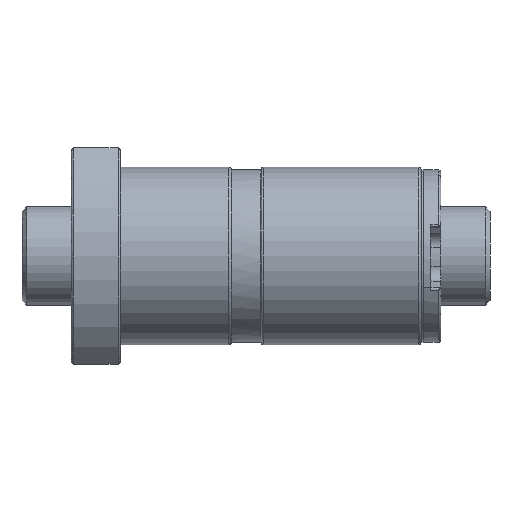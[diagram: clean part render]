
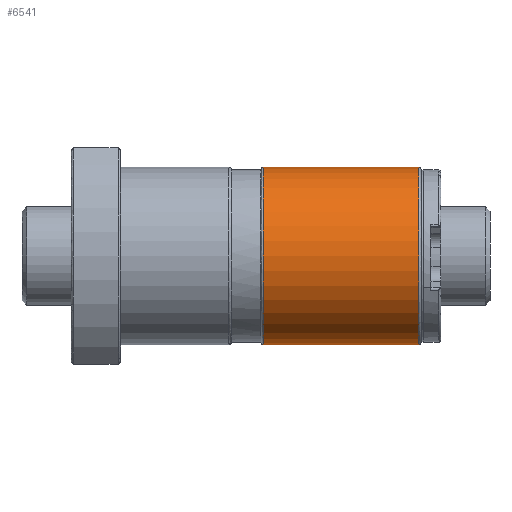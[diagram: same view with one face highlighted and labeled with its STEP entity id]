
A CAD part, front view. The second image highlights one B-rep face of the part: STEP entity #6541.
In plain terms, the highlighted cylindrical face has radius 18 mm (diameter 36 mm), a partial arc.
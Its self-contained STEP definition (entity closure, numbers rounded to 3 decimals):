
#74 = EDGE_CURVE ( 'NONE', #5407, #3514, #1865, .T. ) ;
#786 = CARTESIAN_POINT ( 'NONE',  ( 71., 0., 18. ) ) ;
#905 = CARTESIAN_POINT ( 'NONE',  ( 71., 0., 0. ) ) ;
#1141 = DIRECTION ( 'NONE',  ( -1., 0., 0. ) ) ;
#1228 = CARTESIAN_POINT ( 'NONE',  ( 70.5, 0., 18. ) ) ;
#1540 = VERTEX_POINT ( 'NONE', #7254 ) ;
#1657 = EDGE_CURVE ( 'NONE', #1540, #5407, #4839, .T. ) ;
#1865 = LINE ( 'NONE', #786, #4753 ) ;
#1983 = CARTESIAN_POINT ( 'NONE',  ( 39., 0., 0. ) ) ;
#2034 = ORIENTED_EDGE ( 'NONE', *, *, #9281, .F. ) ;
#2529 = VERTEX_POINT ( 'NONE', #10030 ) ;
#2620 = EDGE_CURVE ( 'NONE', #3514, #2529, #5469, .T. ) ;
#3140 = DIRECTION ( 'NONE',  ( 0., 0., 1. ) ) ;
#3196 = ORIENTED_EDGE ( 'NONE', *, *, #74, .T. ) ;
#3514 = VERTEX_POINT ( 'NONE', #7559 ) ;
#4215 = VECTOR ( 'NONE', #1141, 1000. ) ;
#4753 = VECTOR ( 'NONE', #7573, 1000. ) ;
#4839 = CIRCLE ( 'NONE', #6982, 18. ) ;
#5407 = VERTEX_POINT ( 'NONE', #1228 ) ;
#5469 = CIRCLE ( 'NONE', #6929, 18. ) ;
#6236 = EDGE_LOOP ( 'NONE', ( #2034, #8429, #3196, #6513 ) ) ;
#6513 = ORIENTED_EDGE ( 'NONE', *, *, #2620, .T. ) ;
#6541 = ADVANCED_FACE ( 'NONE', ( #6853 ), #10258, .T. ) ;
#6799 = AXIS2_PLACEMENT_3D ( 'NONE', #905, #7521, #8292 ) ;
#6853 = FACE_OUTER_BOUND ( 'NONE', #6236, .T. ) ;
#6929 = AXIS2_PLACEMENT_3D ( 'NONE', #1983, #8677, #8640 ) ;
#6982 = AXIS2_PLACEMENT_3D ( 'NONE', #7292, #8138, #3140 ) ;
#7254 = CARTESIAN_POINT ( 'NONE',  ( 70.5, 0., -18. ) ) ;
#7292 = CARTESIAN_POINT ( 'NONE',  ( 70.5, 0., 0. ) ) ;
#7521 = DIRECTION ( 'NONE',  ( -1., 0., 0. ) ) ;
#7559 = CARTESIAN_POINT ( 'NONE',  ( 39., 0., 18. ) ) ;
#7573 = DIRECTION ( 'NONE',  ( -1., 0., 0. ) ) ;
#7600 = LINE ( 'NONE', #10322, #4215 ) ;
#8138 = DIRECTION ( 'NONE',  ( -1., 0., 0. ) ) ;
#8292 = DIRECTION ( 'NONE',  ( 0., 0., 1. ) ) ;
#8429 = ORIENTED_EDGE ( 'NONE', *, *, #1657, .T. ) ;
#8640 = DIRECTION ( 'NONE',  ( 0., 0., 1. ) ) ;
#8677 = DIRECTION ( 'NONE',  ( 1., 0., 0. ) ) ;
#9281 = EDGE_CURVE ( 'NONE', #1540, #2529, #7600, .T. ) ;
#10030 = CARTESIAN_POINT ( 'NONE',  ( 39., 0., -18. ) ) ;
#10258 = CYLINDRICAL_SURFACE ( 'NONE', #6799, 18. ) ;
#10322 = CARTESIAN_POINT ( 'NONE',  ( 71., 0., -18. ) ) ;
